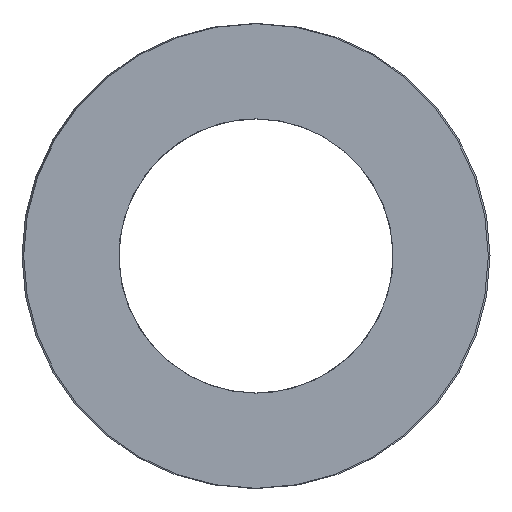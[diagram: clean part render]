
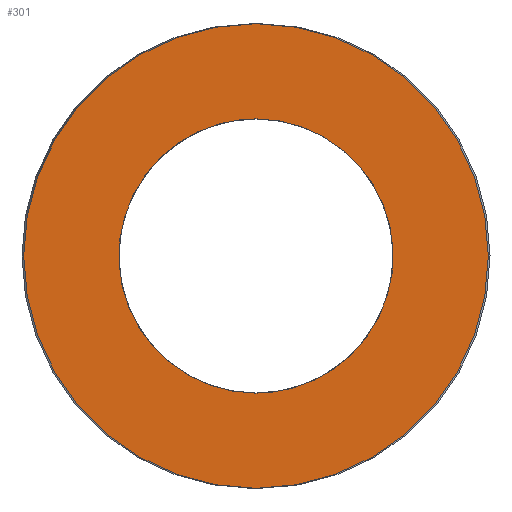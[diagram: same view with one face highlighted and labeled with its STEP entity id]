
A CAD part, left-side view. The second image highlights one B-rep face of the part: STEP entity #301.
In plain terms, the highlighted planar face has unit normal (-1, 0, 0).
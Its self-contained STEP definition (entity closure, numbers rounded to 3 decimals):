
#63=CARTESIAN_POINT('Vertex',(0.,6.1,0.)) ;
#77=CARTESIAN_POINT('Vertex',(0.,-6.1,0.)) ;
#80=CARTESIAN_POINT('Axis2P3D Location',(0.,0.,0.)) ;
#97=CARTESIAN_POINT('Axis2P3D Location',(0.,0.,0.)) ;
#232=CARTESIAN_POINT('Axis2P3D Location',(0.,3.05,0.)) ;
#242=CARTESIAN_POINT('Control Point',(0.,0.,-3.6)) ;
#243=CARTESIAN_POINT('Control Point',(0.,0.372,-3.6)) ;
#244=CARTESIAN_POINT('Control Point',(0.,0.744,-3.552)) ;
#245=CARTESIAN_POINT('Control Point',(0.,1.107,-3.456)) ;
#246=CARTESIAN_POINT('Control Point',(0.,1.801,-3.172)) ;
#247=CARTESIAN_POINT('Control Point',(0.,2.4,-2.722)) ;
#248=CARTESIAN_POINT('Control Point',(0.,2.669,-2.459)) ;
#249=CARTESIAN_POINT('Control Point',(0.,3.133,-1.869)) ;
#250=CARTESIAN_POINT('Control Point',(0.,3.431,-1.182)) ;
#251=CARTESIAN_POINT('Control Point',(0.,3.535,-0.82)) ;
#252=CARTESIAN_POINT('Control Point',(0.,3.647,-0.079)) ;
#253=CARTESIAN_POINT('Control Point',(0.,3.567,0.667)) ;
#254=CARTESIAN_POINT('Control Point',(0.,3.479,1.032)) ;
#255=CARTESIAN_POINT('Control Point',(0.,3.21,1.732)) ;
#256=CARTESIAN_POINT('Control Point',(0.,2.773,2.341)) ;
#257=CARTESIAN_POINT('Control Point',(0.,2.516,2.615)) ;
#258=CARTESIAN_POINT('Control Point',(0.,1.937,3.092)) ;
#259=CARTESIAN_POINT('Control Point',(0.,1.255,3.405)) ;
#260=CARTESIAN_POINT('Control Point',(0.,0.896,3.517)) ;
#261=CARTESIAN_POINT('Control Point',(0.,0.496,3.586)) ;
#262=CARTESIAN_POINT('Control Point',(0.,0.093,3.599)) ;
#263=CARTESIAN_POINT('Control Point',(0.,0.062,3.6)) ;
#264=CARTESIAN_POINT('Control Point',(0.,0.031,3.6)) ;
#265=CARTESIAN_POINT('Control Point',(0.,0.,3.6)) ;
#266=CARTESIAN_POINT('Vertex',(0.,0.,-3.6)) ;
#268=CARTESIAN_POINT('Vertex',(0.,0.,3.6)) ;
#272=CARTESIAN_POINT('Control Point',(0.,0.,3.6)) ;
#273=CARTESIAN_POINT('Control Point',(0.,-0.372,3.6)) ;
#274=CARTESIAN_POINT('Control Point',(0.,-0.744,3.552)) ;
#275=CARTESIAN_POINT('Control Point',(0.,-1.107,3.456)) ;
#276=CARTESIAN_POINT('Control Point',(0.,-1.801,3.172)) ;
#277=CARTESIAN_POINT('Control Point',(0.,-2.4,2.722)) ;
#278=CARTESIAN_POINT('Control Point',(0.,-2.669,2.459)) ;
#279=CARTESIAN_POINT('Control Point',(0.,-3.133,1.869)) ;
#280=CARTESIAN_POINT('Control Point',(0.,-3.431,1.182)) ;
#281=CARTESIAN_POINT('Control Point',(0.,-3.535,0.82)) ;
#282=CARTESIAN_POINT('Control Point',(0.,-3.647,0.079)) ;
#283=CARTESIAN_POINT('Control Point',(0.,-3.567,-0.667)) ;
#284=CARTESIAN_POINT('Control Point',(0.,-3.479,-1.032)) ;
#285=CARTESIAN_POINT('Control Point',(0.,-3.21,-1.732)) ;
#286=CARTESIAN_POINT('Control Point',(0.,-2.773,-2.341)) ;
#287=CARTESIAN_POINT('Control Point',(0.,-2.516,-2.615)) ;
#288=CARTESIAN_POINT('Control Point',(0.,-1.937,-3.092)) ;
#289=CARTESIAN_POINT('Control Point',(0.,-1.255,-3.405)) ;
#290=CARTESIAN_POINT('Control Point',(0.,-0.896,-3.517)) ;
#291=CARTESIAN_POINT('Control Point',(0.,-0.496,-3.586)) ;
#292=CARTESIAN_POINT('Control Point',(0.,-0.093,-3.599)) ;
#293=CARTESIAN_POINT('Control Point',(0.,-0.062,-3.6)) ;
#294=CARTESIAN_POINT('Control Point',(0.,-0.031,-3.6)) ;
#295=CARTESIAN_POINT('Control Point',(0.,0.,-3.6)) ;
#81=DIRECTION('Axis2P3D Direction',(1.,-0.,0.)) ;
#98=DIRECTION('Axis2P3D Direction',(1.,-0.,0.)) ;
#233=DIRECTION('Axis2P3D Direction',(-1.,0.,0.)) ;
#234=DIRECTION('Axis2P3D XDirection',(0.,1.,0.)) ;
#82=AXIS2_PLACEMENT_3D('Circle Axis2P3D',#80,#81,$) ;
#99=AXIS2_PLACEMENT_3D('Circle Axis2P3D',#97,#98,$) ;
#235=AXIS2_PLACEMENT_3D('Plane Axis2P3D',#232,#233,#234) ;
#238=ORIENTED_EDGE('',*,*,#84,.T.) ;
#239=ORIENTED_EDGE('',*,*,#101,.T.) ;
#298=ORIENTED_EDGE('',*,*,#270,.T.) ;
#299=ORIENTED_EDGE('',*,*,#296,.T.) ;
#300=FACE_BOUND('',#297,.T.) ;
#301=ADVANCED_FACE('392-B13-102',(#240,#300),#236,.T.) ;
#241=B_SPLINE_CURVE_WITH_KNOTS('',5,(#242,#243,#244,#245,#246,#247,#248,#249,#250,#251,#252,#253,#254,#255,#256,#257,#258,#259,#260,#261,#262,#263,#264,#265),.UNSPECIFIED.,.F.,.U.,(6,3,3,3,3,3,3,6),(0.,2.629,5.258,7.887,10.516,13.145,15.774,15.994),.UNSPECIFIED.) ;
#271=B_SPLINE_CURVE_WITH_KNOTS('',5,(#272,#273,#274,#275,#276,#277,#278,#279,#280,#281,#282,#283,#284,#285,#286,#287,#288,#289,#290,#291,#292,#293,#294,#295),.UNSPECIFIED.,.F.,.U.,(6,3,3,3,3,3,3,6),(0.,2.629,5.258,7.887,10.516,13.145,15.774,15.994),.UNSPECIFIED.) ;
#83=CIRCLE('generated circle',#82,6.1) ;
#100=CIRCLE('generated circle',#99,6.1) ;
#84=EDGE_CURVE('',#64,#78,#83,.F.) ;
#101=EDGE_CURVE('',#78,#64,#100,.F.) ;
#270=EDGE_CURVE('',#267,#269,#241,.T.) ;
#296=EDGE_CURVE('',#269,#267,#271,.T.) ;
#237=EDGE_LOOP('',(#238,#239)) ;
#297=EDGE_LOOP('',(#298,#299)) ;
#240=FACE_OUTER_BOUND('',#237,.T.) ;
#236=PLANE('Plane',#235) ;
#64=VERTEX_POINT('',#63) ;
#78=VERTEX_POINT('',#77) ;
#267=VERTEX_POINT('',#266) ;
#269=VERTEX_POINT('',#268) ;
